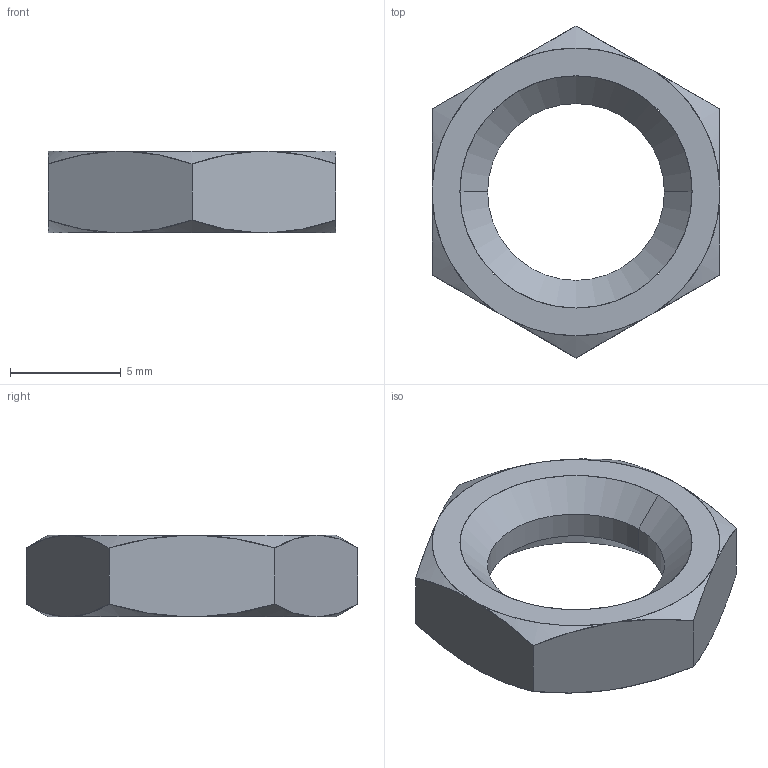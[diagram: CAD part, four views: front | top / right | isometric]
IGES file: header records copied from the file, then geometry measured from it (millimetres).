
Start section: SolidWorks IGES file using analytic representation for surfaces
Global section: file name: C:\Users\liam_\OneDrive\Desktop\Work\Mat Davis Pending 20181125\automotion\P SERIES\P0307.ZP_v2\P0307.ZP_v2_20181215_IGES\P0307.080-ZP.igs; native system: SolidWorks 2017; preprocessor: SolidWorks 2017; author: liam_; date: 181215.154842; units: millimetre
Bounding box: 13 x 15.01 x 3.7 mm (x, y, z)
Surface area: 405.5 mm2 (no closed solid volume)
Topology: 0 solids, 0 shells, 26 faces, 352 edges, 352 vertices
Faces by surface type: revolution 18, bspline 8
